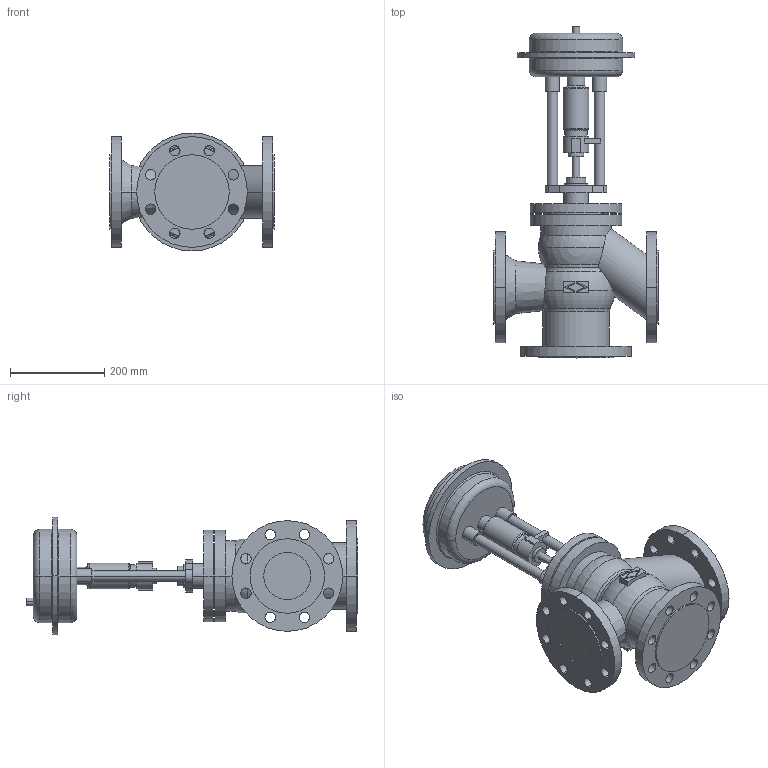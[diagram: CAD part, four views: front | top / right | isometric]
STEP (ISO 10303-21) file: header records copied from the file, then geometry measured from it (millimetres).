
FILE_DESCRIPTION(('OneSpaceDesigner STEP Export'),'2;1');
FILE_NAME('c000000648.stp','2006-09-13T12:37:28',(''),(''),'OneSpace Designer STEP processor for AP214 (Solid Model)','OneSpace Designer 13.20A 18-Aug-2005 (C) CoCreate Software GmbH','');
FILE_SCHEMA(('AUTOMOTIVE_DESIGN { 1 0 10303 214 1 1 1 1 }'));
Length unit declared in the file: millimetre
Products named in the file (2): 1; 2
Bounding box: 350 x 704.5 x 250 mm (x, y, z)
Volume: 14123920.8 mm3; surface area: 798819.7 mm2
Topology: 2 solids, 2 shells, 225 faces, 563 edges, 366 vertices
Faces by surface type: cylinder 114, plane 73, torus 26, cone 8, sphere 4
Entity records: 6011 total; most frequent: CARTESIAN_POINT 1162, ORIENTED_EDGE 1118, DIRECTION 848, EDGE_CURVE 559, VERTEX_POINT 366, AXIS2_PLACEMENT_3D 316, EDGE_LOOP 301, FACE_OUTER_BOUND 225
